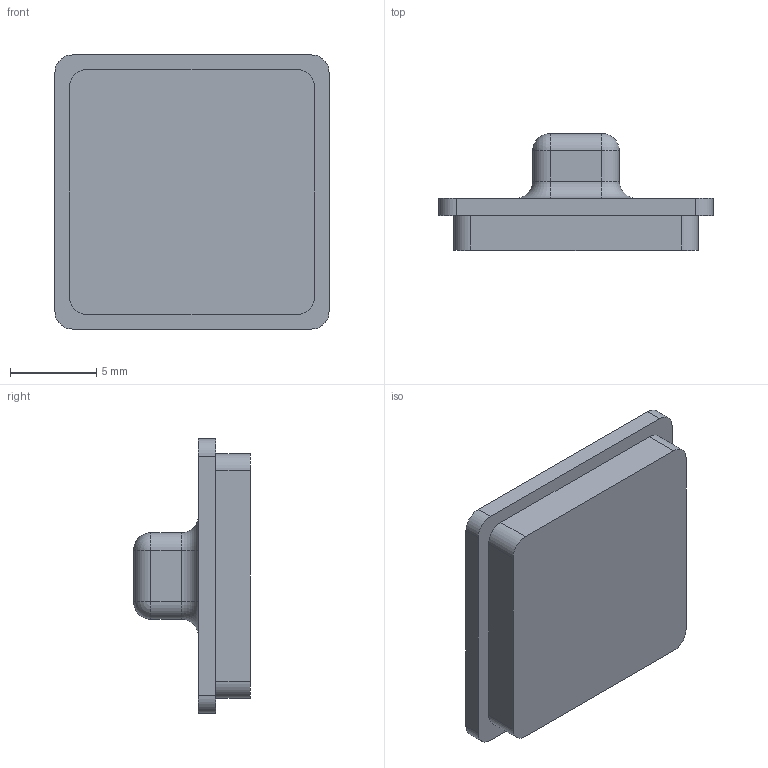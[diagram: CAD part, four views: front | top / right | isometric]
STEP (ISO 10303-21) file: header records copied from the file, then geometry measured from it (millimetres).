
FILE_DESCRIPTION (( 'STEP AP203' ), '1' );
FILE_NAME ('Ballast Cell Cap v2.STEP', '2025-05-08T01:57:08', ( '' ), ( '' ), 'SwSTEP 2.0', 'SolidWorks 2023', '' );
FILE_SCHEMA (( 'CONFIG_CONTROL_DESIGN' ));
Length unit declared in the file: millimetre
Products named in the file (1): Ballast Cell Cap v2
Bounding box: 15.85 x 6.75 x 15.85 mm (x, y, z)
Volume: 740.2 mm3; surface area: 725 mm2
Topology: 1 solids, 1 shells, 44 faces, 104 edges, 60 vertices
Faces by surface type: cylinder 20, plane 16, sphere 4, torus 4
Entity records: 1305 total; most frequent: DIRECTION 234, CARTESIAN_POINT 205, ORIENTED_EDGE 200, EDGE_CURVE 100, AXIS2_PLACEMENT_3D 89, VERTEX_POINT 60, LINE 56, VECTOR 56
